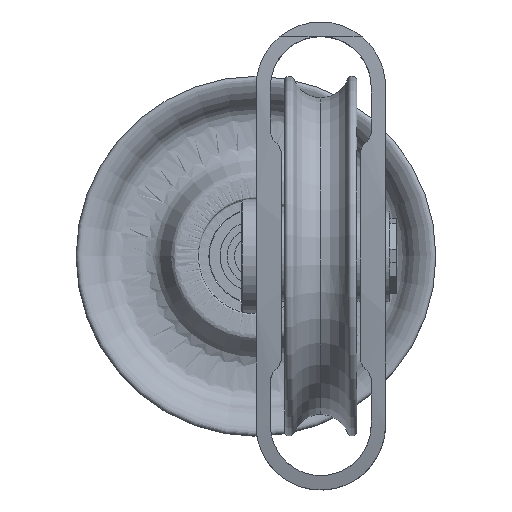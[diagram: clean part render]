
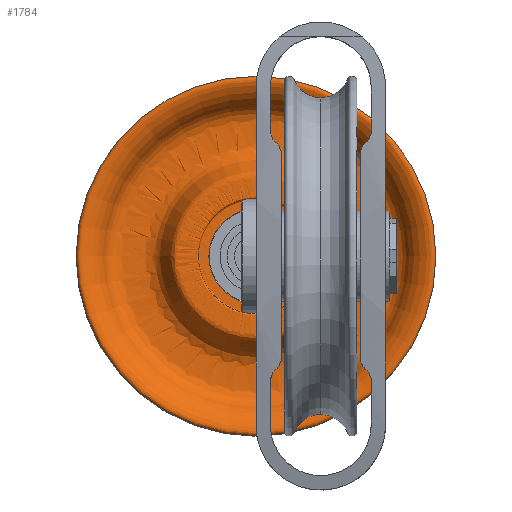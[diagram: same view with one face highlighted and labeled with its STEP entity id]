
A CAD part, top view. The second image highlights one B-rep face of the part: STEP entity #1784.
In plain terms, the highlighted face is a revolution surface.
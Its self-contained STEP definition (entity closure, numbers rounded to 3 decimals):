
#1784 = ADVANCED_FACE( '', ( #1985, #1986 ), #1987, .F. );
#1985 = FACE_OUTER_BOUND( '', #2284, .T. );
#1986 = FACE_OUTER_BOUND( '', #2285, .T. );
#1987 = SURFACE_OF_REVOLUTION( '', #2286, #2287 );
#2284 = EDGE_LOOP( '', ( #2907 ) );
#2285 = EDGE_LOOP( '', ( #2908 ) );
#2286 = ( B_SPLINE_CURVE( 2, ( #2910, #2911, #2912, #2913, #2914, #2915, #2916, #2917, #2918, #2919, #2920, #2921, #2922, #2923, #2924, #2925, #2926, #2927, #2928, #2929, #2930, #2931, #2932, #2933, #2934, #2935, #2936, #2937, #2938, #2939, #2940, #2941, #2942, #2943, #2944 ), .UNSPECIFIED., .F., .F. )B_SPLINE_CURVE_WITH_KNOTS( ( 3, 2, 2, 2, 2, 2, 2, 2, 2, 2, 2, 2, 2, 2, 2, 2, 2, 3 ), ( 37.111, 37.393, 38.178, 39.12, 39.905, 40.027, 42.645, 47.552, 53.836, 53.885, 60.463, 68.375, 69.385, 69.42, 70.99, 71.99, 73.221, 83.069 ), .UNSPECIFIED. )RATIONAL_B_SPLINE_CURVE( ( 1., 1., 1., 0.707, 1., 1., 1., 0.707, 1., 1., 1., 0.866, 1., 1., 1., 0.866, 1., 1., 1., 0.853, 1., 0.929, 1., 0.986, 1., 1., 1., 0.707, 1., 1., 1., 0.816, 1., 0.816, 1. ) )BOUNDED_CURVE(  )REPRESENTATION_ITEM( '' )GEOMETRIC_REPRESENTATION_ITEM(  )CURVE(  ) );
#2287 = AXIS1_PLACEMENT( '', #2951, #2952 );
#2907 = ORIENTED_EDGE( '', *, *, #3368, .F. );
#2908 = ORIENTED_EDGE( '', *, *, #3366, .T. );
#2910 = CARTESIAN_POINT( '', ( 0., 13.1, 1. ) );
#2911 = CARTESIAN_POINT( '', ( 0., 14.3, 1. ) );
#2912 = CARTESIAN_POINT( '', ( 0., 15.5, 1. ) );
#2913 = CARTESIAN_POINT( '', ( 0., 16., 1. ) );
#2914 = CARTESIAN_POINT( '', ( 0., 16., 1.5 ) );
#2915 = CARTESIAN_POINT( '', ( 0., 16., 5.5 ) );
#2916 = CARTESIAN_POINT( '', ( 0., 16., 9.5 ) );
#2917 = CARTESIAN_POINT( '', ( 0., 16., 10. ) );
#2918 = CARTESIAN_POINT( '', ( 0., 16.5, 10. ) );
#2919 = CARTESIAN_POINT( '', ( 0., 19.028, 10. ) );
#2920 = CARTESIAN_POINT( '', ( 0., 21.557, 10. ) );
#2921 = CARTESIAN_POINT( '', ( 0., 23., 10. ) );
#2922 = CARTESIAN_POINT( '', ( 0., 23.722, 8.75 ) );
#2923 = CARTESIAN_POINT( '', ( 0., 24.949, 6.625 ) );
#2924 = CARTESIAN_POINT( '', ( 0., 26.175, 4.5 ) );
#2925 = CARTESIAN_POINT( '', ( 0., 27.907, 1.5 ) );
#2926 = CARTESIAN_POINT( '', ( 0., 31.372, 1.5 ) );
#2927 = CARTESIAN_POINT( '', ( 0., 34.092, 1.5 ) );
#2928 = CARTESIAN_POINT( '', ( 0., 36.813, 1.5 ) );
#2929 = CARTESIAN_POINT( '', ( 0., 40.477, 1.5 ) );
#2930 = CARTESIAN_POINT( '', ( 0., 42.151, 4.759 ) );
#2931 = CARTESIAN_POINT( '', ( 0., 44.05, 8.457 ) );
#2932 = CARTESIAN_POINT( '', ( 0., 47.974, 9.831 ) );
#2933 = CARTESIAN_POINT( '', ( 0., 48.456, 10. ) );
#2934 = CARTESIAN_POINT( '', ( 0., 48.966, 10. ) );
#2935 = CARTESIAN_POINT( '', ( 0., 48.983, 10. ) );
#2936 = CARTESIAN_POINT( '', ( 0., 49., 10. ) );
#2937 = CARTESIAN_POINT( '', ( 0., 50., 10. ) );
#2938 = CARTESIAN_POINT( '', ( 0., 50., 9. ) );
#2939 = CARTESIAN_POINT( '', ( 0., 50., 8.743 ) );
#2940 = CARTESIAN_POINT( '', ( 0., 50., 8.485 ) );
#2941 = CARTESIAN_POINT( '', ( 0., 50., 7.778 ) );
#2942 = CARTESIAN_POINT( '', ( 0., 49.333, 7.542 ) );
#2943 = CARTESIAN_POINT( '', ( 0., 44., 5.657 ) );
#2944 = CARTESIAN_POINT( '', ( 0., 44., 0. ) );
#2951 = CARTESIAN_POINT( '', ( 0., 0., 0. ) );
#2952 = DIRECTION( '', ( 0., 0., 1. ) );
#3366 = EDGE_CURVE( '', #3633, #3633, #3634, .T. );
#3368 = EDGE_CURVE( '', #3637, #3637, #3638, .T. );
#3633 = VERTEX_POINT( '', #4384 );
#3634 = CIRCLE( '', #4385, 13.1 );
#3637 = VERTEX_POINT( '', #4388 );
#3638 = CIRCLE( '', #4389, 44. );
#4384 = CARTESIAN_POINT( '', ( -13.1, 0., 1. ) );
#4385 = AXIS2_PLACEMENT_3D( '', #4719, #4720, #4721 );
#4388 = CARTESIAN_POINT( '', ( -44., 0., 0. ) );
#4389 = AXIS2_PLACEMENT_3D( '', #4725, #4726, #4727 );
#4719 = CARTESIAN_POINT( '', ( 0., 0., 1. ) );
#4720 = DIRECTION( '', ( 0., 0., -1. ) );
#4721 = DIRECTION( '', ( -1., 0., 0. ) );
#4725 = CARTESIAN_POINT( '', ( 0., 0., 0. ) );
#4726 = DIRECTION( '', ( 0., 0., -1. ) );
#4727 = DIRECTION( '', ( -1., 0., 0. ) );
